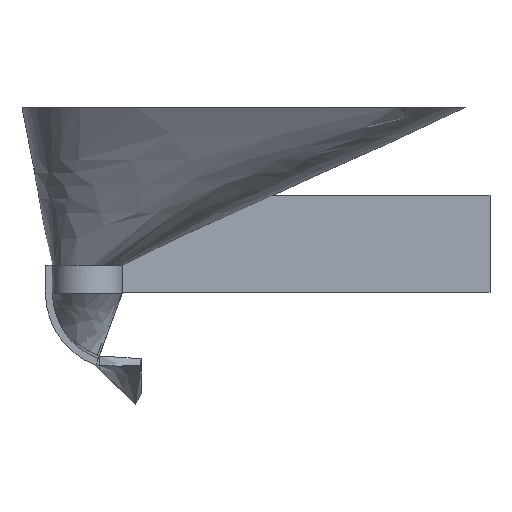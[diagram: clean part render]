
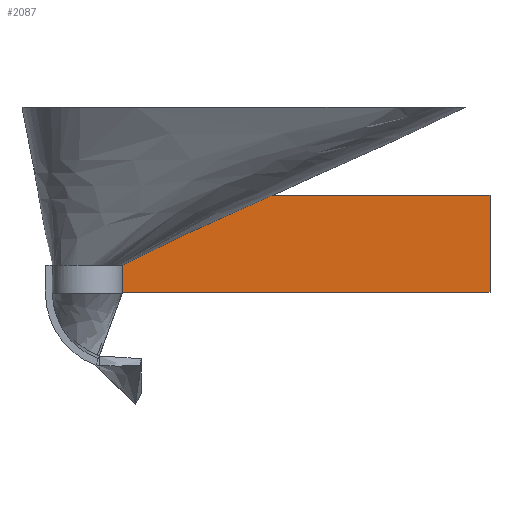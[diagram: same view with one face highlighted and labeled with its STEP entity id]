
A CAD part, left-side view. The second image highlights one B-rep face of the part: STEP entity #2087.
In plain terms, the highlighted planar face has unit normal (-1, 0, 0).
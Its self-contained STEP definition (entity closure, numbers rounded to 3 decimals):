
#124=PLANE('',#2203);
#155=LINE('',#3305,#359);
#290=LINE('',#7162,#494);
#292=LINE('',#7166,#496);
#293=LINE('',#7167,#497);
#359=VECTOR('',#2250,10.);
#494=VECTOR('',#2529,10.);
#496=VECTOR('',#2533,10.);
#497=VECTOR('',#2534,10.);
#643=FACE_OUTER_BOUND('',#770,.T.);
#770=EDGE_LOOP('',(#1800,#1801,#1802,#1803,#1804));
#821=B_SPLINE_CURVE_WITH_KNOTS('',3,(#3055,#3056,#3057,#3058,#3059,#3060,
#3061,#3062,#3063,#3064),.UNSPECIFIED.,.F.,.F.,(4,2,2,2,4),(0.057,
0.393,5.63,8.07,10.674),
 .UNSPECIFIED.);
#883=VERTEX_POINT('',#3048);
#884=VERTEX_POINT('',#3054);
#898=VERTEX_POINT('',#3303);
#1019=VERTEX_POINT('',#7160);
#1020=VERTEX_POINT('',#7165);
#1072=EDGE_CURVE('',#883,#884,#821,.T.);
#1090=EDGE_CURVE('',#883,#898,#155,.T.);
#1291=EDGE_CURVE('',#1019,#898,#290,.T.);
#1293=EDGE_CURVE('',#1019,#1020,#292,.T.);
#1294=EDGE_CURVE('',#1020,#884,#293,.T.);
#1800=ORIENTED_EDGE('',*,*,#1072,.F.);
#1801=ORIENTED_EDGE('',*,*,#1090,.T.);
#1802=ORIENTED_EDGE('',*,*,#1291,.F.);
#1803=ORIENTED_EDGE('',*,*,#1293,.T.);
#1804=ORIENTED_EDGE('',*,*,#1294,.T.);
#2087=ADVANCED_FACE('',(#643),#124,.F.);
#2203=AXIS2_PLACEMENT_3D('',#7164,#2531,#2532);
#2250=DIRECTION('',(0.,0.,-1.));
#2529=DIRECTION('',(0.,1.,0.));
#2531=DIRECTION('center_axis',(1.,0.,0.));
#2532=DIRECTION('ref_axis',(0.,0.,-1.));
#2533=DIRECTION('',(0.,0.,1.));
#2534=DIRECTION('',(0.,1.,0.));
#3048=CARTESIAN_POINT('',(-44.29,-71.273,9.354));
#3054=CARTESIAN_POINT('',(-44.29,-178.591,59.278));
#3055=CARTESIAN_POINT('Ctrl Pts',(-44.29,-71.273,9.354));
#3056=CARTESIAN_POINT('Ctrl Pts',(-44.29,-72.247,9.901));
#3057=CARTESIAN_POINT('Ctrl Pts',(-44.29,-73.222,10.443));
#3058=CARTESIAN_POINT('Ctrl Pts',(-44.29,-89.507,19.379));
#3059=CARTESIAN_POINT('Ctrl Pts',(-44.29,-105.414,26.504));
#3060=CARTESIAN_POINT('Ctrl Pts',(-44.29,-134.093,39.363));
#3061=CARTESIAN_POINT('Ctrl Pts',(-44.29,-143.21,43.439));
#3062=CARTESIAN_POINT('Ctrl Pts',(-44.29,-162.064,51.864));
#3063=CARTESIAN_POINT('Ctrl Pts',(-44.29,-169.772,55.314));
#3064=CARTESIAN_POINT('Ctrl Pts',(-44.29,-178.591,59.278));
#3303=CARTESIAN_POINT('',(-44.29,-71.273,-9.944));
#3305=CARTESIAN_POINT('',(-44.29,-71.273,-9.944));
#7160=CARTESIAN_POINT('',(-44.29,-334.856,-9.944));
#7162=CARTESIAN_POINT('',(-44.29,-334.856,-9.944));
#7164=CARTESIAN_POINT('Origin',(-44.29,-334.856,59.278));
#7165=CARTESIAN_POINT('',(-44.29,-334.856,59.278));
#7166=CARTESIAN_POINT('',(-44.29,-334.856,-9.944));
#7167=CARTESIAN_POINT('',(-44.29,-334.856,59.278));
